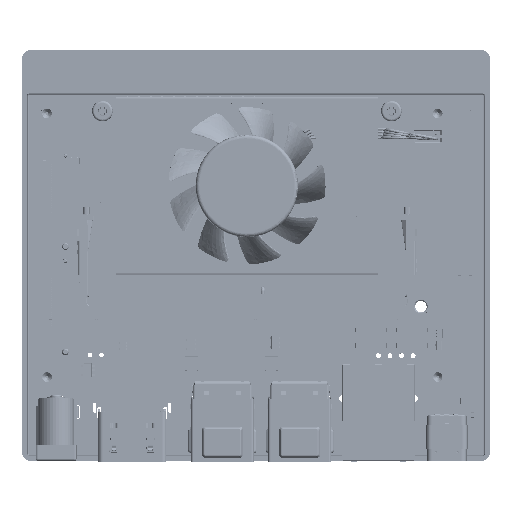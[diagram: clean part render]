
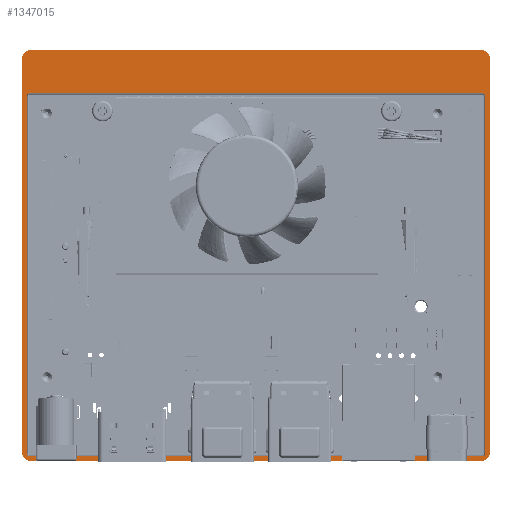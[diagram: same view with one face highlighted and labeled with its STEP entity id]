
A CAD part, top view. The second image highlights one B-rep face of the part: STEP entity #1347015.
In plain terms, the highlighted planar face has unit normal (0, 0, 1) as drawn and (0, 1, 0) by its records, which use the part's own axes.
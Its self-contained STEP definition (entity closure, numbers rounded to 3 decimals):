
#1336038=CARTESIAN_POINT('',(-49.5,3.25,43.25));
#1336039=DIRECTION('',(0.,1.,0.));
#1336040=DIRECTION('',(-1.,0.,0.));
#1336041=AXIS2_PLACEMENT_3D('',#1336038,#1336039,#1336040);
#1336046=DIRECTION('',(0.,0.,1.));
#1336047=VECTOR('',#1336046,86.5);
#1336048=CARTESIAN_POINT('',(-51.5,3.25,-43.25));
#1336049=LINE('',#1336048,#1336047);
#1336053=CARTESIAN_POINT('',(-49.5,3.25,-43.25));
#1336054=DIRECTION('',(0.,1.,0.));
#1336055=DIRECTION('',(0.,0.,-1.));
#1336056=AXIS2_PLACEMENT_3D('',#1336053,#1336054,#1336055);
#1336061=DIRECTION('',(-1.,0.,0.));
#1336062=VECTOR('',#1336061,99.);
#1336063=CARTESIAN_POINT('',(49.5,3.25,-45.25));
#1336064=LINE('',#1336063,#1336062);
#1336068=CARTESIAN_POINT('',(49.5,3.25,-43.25));
#1336069=DIRECTION('',(0.,1.,0.));
#1336070=DIRECTION('',(1.,0.,0.));
#1336071=AXIS2_PLACEMENT_3D('',#1336068,#1336069,#1336070);
#1336076=DIRECTION('',(0.,0.,-1.));
#1336077=VECTOR('',#1336076,86.5);
#1336078=CARTESIAN_POINT('',(51.5,3.25,43.25));
#1336079=LINE('',#1336078,#1336077);
#1336083=CARTESIAN_POINT('',(49.5,3.25,43.25));
#1336084=DIRECTION('',(0.,1.,0.));
#1336085=DIRECTION('',(0.,0.,1.));
#1336086=AXIS2_PLACEMENT_3D('',#1336083,#1336084,#1336085);
#1336091=DIRECTION('',(1.,0.,0.));
#1336092=VECTOR('',#1336091,99.);
#1336093=CARTESIAN_POINT('',(-49.5,3.25,45.25));
#1336094=LINE('',#1336093,#1336092);
#1336098=CARTESIAN_POINT('',(-49.9,3.25,-43.65));
#1336099=DIRECTION('',(0.,-1.,0.));
#1336100=DIRECTION('',(-1.,0.,0.));
#1336101=AXIS2_PLACEMENT_3D('',#1336098,#1336099,#1336100);
#1336106=DIRECTION('',(0.,0.,-1.));
#1336107=VECTOR('',#1336106,78.8);
#1336108=CARTESIAN_POINT('',(-50.4,3.25,35.15));
#1336109=LINE('',#1336108,#1336107);
#1336113=CARTESIAN_POINT('',(-49.9,3.25,35.15));
#1336114=DIRECTION('',(0.,-1.,0.));
#1336115=DIRECTION('',(0.,0.,1.));
#1336116=AXIS2_PLACEMENT_3D('',#1336113,#1336114,#1336115);
#1336121=DIRECTION('',(-1.,0.,0.));
#1336122=VECTOR('',#1336121,99.8);
#1336123=CARTESIAN_POINT('',(49.9,3.25,35.65));
#1336124=LINE('',#1336123,#1336122);
#1336128=CARTESIAN_POINT('',(49.9,3.25,35.15));
#1336129=DIRECTION('',(0.,-1.,0.));
#1336130=DIRECTION('',(1.,0.,0.));
#1336131=AXIS2_PLACEMENT_3D('',#1336128,#1336129,#1336130);
#1336136=DIRECTION('',(0.,0.,1.));
#1336137=VECTOR('',#1336136,78.8);
#1336138=CARTESIAN_POINT('',(50.4,3.25,-43.65));
#1336139=LINE('',#1336138,#1336137);
#1336143=CARTESIAN_POINT('',(49.9,3.25,-43.65));
#1336144=DIRECTION('',(0.,-1.,0.));
#1336145=DIRECTION('',(0.,0.,-1.));
#1336146=AXIS2_PLACEMENT_3D('',#1336143,#1336144,#1336145);
#1336151=DIRECTION('',(1.,0.,0.));
#1336152=VECTOR('',#1336151,99.8);
#1336153=CARTESIAN_POINT('',(-49.9,3.25,-44.15));
#1336154=LINE('',#1336153,#1336152);
#1345044=CARTESIAN_POINT('',(-51.5,3.25,43.25));
#1345045=CARTESIAN_POINT('',(-49.5,3.25,45.25));
#1345046=VERTEX_POINT('',#1345044);
#1345047=VERTEX_POINT('',#1345045);
#1345048=CARTESIAN_POINT('',(-49.5,3.25,-45.25));
#1345049=CARTESIAN_POINT('',(-51.5,3.25,-43.25));
#1345050=VERTEX_POINT('',#1345048);
#1345051=VERTEX_POINT('',#1345049);
#1345052=CARTESIAN_POINT('',(51.5,3.25,-43.25));
#1345053=CARTESIAN_POINT('',(49.5,3.25,-45.25));
#1345054=VERTEX_POINT('',#1345052);
#1345055=VERTEX_POINT('',#1345053);
#1345056=CARTESIAN_POINT('',(49.5,3.25,45.25));
#1345057=CARTESIAN_POINT('',(51.5,3.25,43.25));
#1345058=VERTEX_POINT('',#1345056);
#1345059=VERTEX_POINT('',#1345057);
#1345372=CARTESIAN_POINT('',(-50.4,3.25,-43.65));
#1345373=CARTESIAN_POINT('',(-49.9,3.25,-44.15));
#1345374=VERTEX_POINT('',#1345372);
#1345375=VERTEX_POINT('',#1345373);
#1345376=CARTESIAN_POINT('',(49.9,3.25,-44.15));
#1345377=VERTEX_POINT('',#1345376);
#1345378=CARTESIAN_POINT('',(50.4,3.25,-43.65));
#1345379=VERTEX_POINT('',#1345378);
#1345380=CARTESIAN_POINT('',(50.4,3.25,35.15));
#1345381=VERTEX_POINT('',#1345380);
#1345382=CARTESIAN_POINT('',(49.9,3.25,35.65));
#1345383=VERTEX_POINT('',#1345382);
#1345384=CARTESIAN_POINT('',(-49.9,3.25,35.65));
#1345385=VERTEX_POINT('',#1345384);
#1345386=CARTESIAN_POINT('',(-50.4,3.25,35.15));
#1345387=VERTEX_POINT('',#1345386);
#1346982=CARTESIAN_POINT('',(0.,3.25,0.));
#1346983=DIRECTION('',(0.,1.,0.));
#1346984=DIRECTION('',(1.,0.,0.));
#1346985=AXIS2_PLACEMENT_3D('',#1346982,#1346983,#1346984);
#1346986=PLANE('',#1346985);
#1346987=ORIENTED_EDGE('',*,*,#1346844,.F.);
#1346988=ORIENTED_EDGE('',*,*,#1346865,.F.);
#1346989=ORIENTED_EDGE('',*,*,#1346886,.F.);
#1346990=ORIENTED_EDGE('',*,*,#1346907,.F.);
#1346991=ORIENTED_EDGE('',*,*,#1346928,.F.);
#1346992=ORIENTED_EDGE('',*,*,#1346949,.F.);
#1346993=ORIENTED_EDGE('',*,*,#1346969,.F.);
#1346994=ORIENTED_EDGE('',*,*,#1346822,.F.);
#1346995=EDGE_LOOP('',(#1346987,#1346988,#1346989,#1346990,#1346991,#1346992,
#1346993,#1346994));
#1346996=FACE_OUTER_BOUND('',#1346995,.F.);
#1346998=ORIENTED_EDGE('',*,*,#1346997,.F.);
#1347000=ORIENTED_EDGE('',*,*,#1346999,.F.);
#1347002=ORIENTED_EDGE('',*,*,#1347001,.F.);
#1347004=ORIENTED_EDGE('',*,*,#1347003,.F.);
#1347006=ORIENTED_EDGE('',*,*,#1347005,.F.);
#1347008=ORIENTED_EDGE('',*,*,#1347007,.F.);
#1347010=ORIENTED_EDGE('',*,*,#1347009,.F.);
#1347012=ORIENTED_EDGE('',*,*,#1347011,.F.);
#1347013=EDGE_LOOP('',(#1346998,#1347000,#1347002,#1347004,#1347006,#1347008,
#1347010,#1347012));
#1347014=FACE_BOUND('',#1347013,.F.);
#1336042=CIRCLE('',#1336041,2.);
#1336057=CIRCLE('',#1336056,2.);
#1336072=CIRCLE('',#1336071,2.);
#1336087=CIRCLE('',#1336086,2.);
#1336102=CIRCLE('',#1336101,0.5);
#1336117=CIRCLE('',#1336116,0.5);
#1336132=CIRCLE('',#1336131,0.5);
#1336147=CIRCLE('',#1336146,0.5);
#1346822=EDGE_CURVE('',#1345047,#1345058,#1336094,.T.);
#1346844=EDGE_CURVE('',#1345046,#1345047,#1336042,.T.);
#1346865=EDGE_CURVE('',#1345051,#1345046,#1336049,.T.);
#1346886=EDGE_CURVE('',#1345050,#1345051,#1336057,.T.);
#1346907=EDGE_CURVE('',#1345055,#1345050,#1336064,.T.);
#1346928=EDGE_CURVE('',#1345054,#1345055,#1336072,.T.);
#1346949=EDGE_CURVE('',#1345059,#1345054,#1336079,.T.);
#1346969=EDGE_CURVE('',#1345058,#1345059,#1336087,.T.);
#1346997=EDGE_CURVE('',#1345374,#1345375,#1336102,.T.);
#1346999=EDGE_CURVE('',#1345387,#1345374,#1336109,.T.);
#1347001=EDGE_CURVE('',#1345385,#1345387,#1336117,.T.);
#1347003=EDGE_CURVE('',#1345383,#1345385,#1336124,.T.);
#1347005=EDGE_CURVE('',#1345381,#1345383,#1336132,.T.);
#1347007=EDGE_CURVE('',#1345379,#1345381,#1336139,.T.);
#1347009=EDGE_CURVE('',#1345377,#1345379,#1336147,.T.);
#1347011=EDGE_CURVE('',#1345375,#1345377,#1336154,.T.);
#1347015=ADVANCED_FACE('',(#1346996,#1347014),#1346986,.T.);
